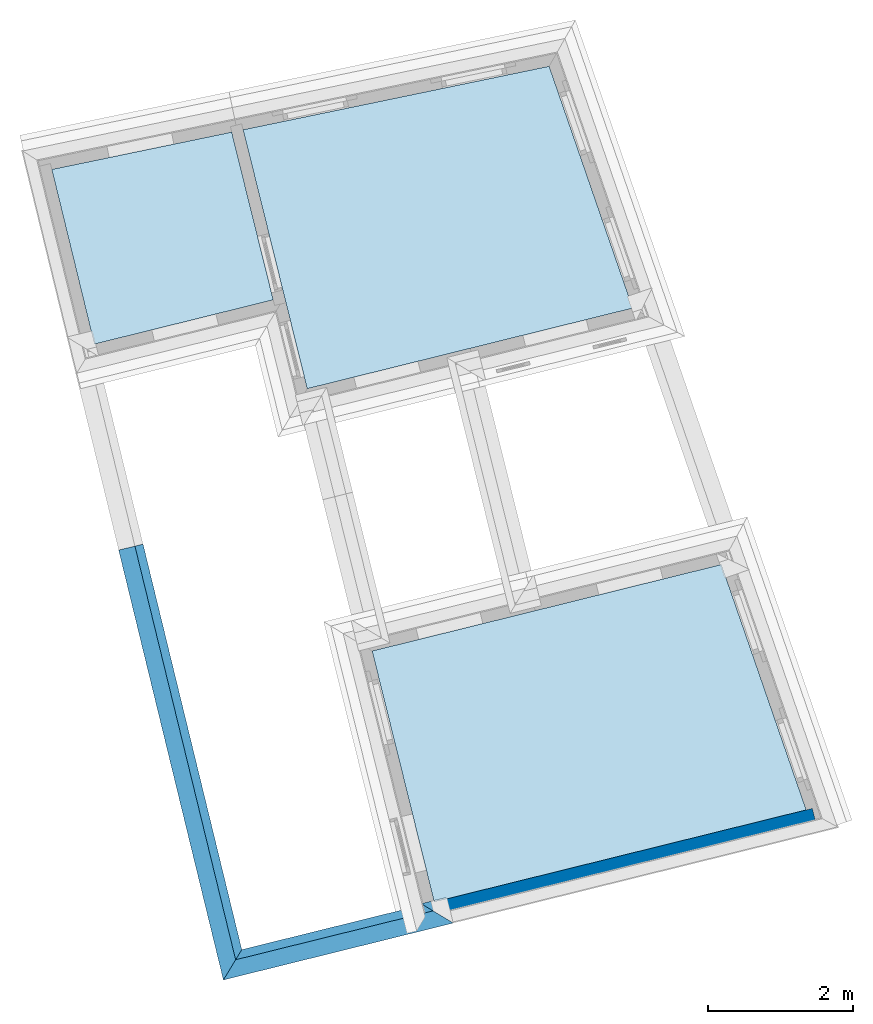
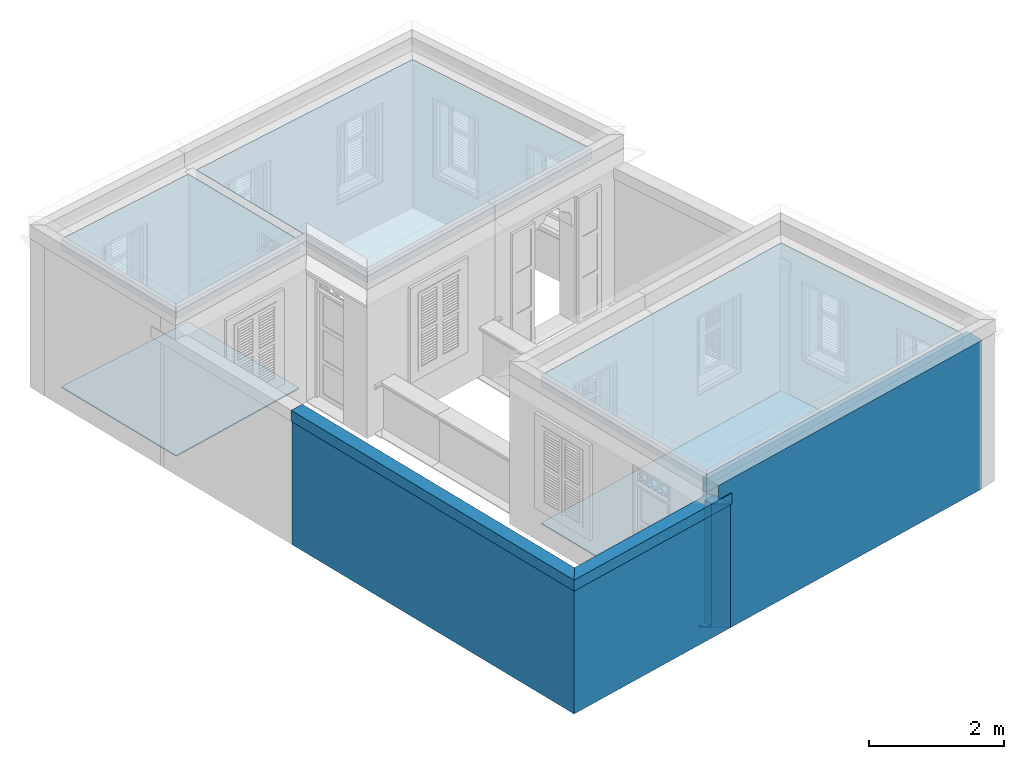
# One storey, part 1 of 15: 6 walls, 5 slabs.
"""IFC4 building model written with IfcOpenShell, lengths in metres."""

import ifcopenshell
import ifcopenshell.guid

model = None  # the IFC model being written
_history = None  # IfcOwnerHistory: only IFC2X3 demands one
_inside = {}  # id of a spatial element -> (the spatial element, [elements in it])
_under = {}  # id of a project, library or spatial element -> (it, [spatial elements below it])
_declared = {}  # id of a project -> (the project, [libraries it declares])
_typed = {}  # id of a type object -> (the type object, [elements of that type])
_made_of = {}  # id of a material, layer set ... -> (it, [elements and type objects made of it])


def new_model(schema):
    """Start an empty IFC model of exactly this schema.

    Asked for "IFC4X3", IfcOpenShell would pick the latest addendum, in which some entities
    have other attributes; the version numbers below select the first issue.
    IFC2X3 requires an IfcOwnerHistory on every rooted entity: one is made here for all.
    """
    global model, _history
    if schema == "IFC4X3":
        model = ifcopenshell.file(schema_version=(4, 3, 0, 0))
    else:
        model = ifcopenshell.file(schema=schema)
    _inside.clear()
    _under.clear()
    _declared.clear()
    _typed.clear()
    _made_of.clear()
    _history = None
    if model.schema == "IFC2X3":
        org = make("IfcOrganization", Name="unknown")
        user = make(
            "IfcPersonAndOrganization",
            ThePerson=make("IfcPerson", FamilyName="unknown"),
            TheOrganization=org,
        )
        app = make(
            "IfcApplication",
            ApplicationDeveloper=org,
            Version="unknown",
            ApplicationFullName="unknown",
            ApplicationIdentifier="unknown",
        )
        _history = make(
            "IfcOwnerHistory",
            OwningUser=user,
            OwningApplication=app,
            ChangeAction="ADDED",
            CreationDate=0,
        )
    return model


def make(cls, **values):
    """One entity of the class cls with the attributes given. An attribute that is None is left unset."""
    return model.create_entity(
        cls, **{name: value for name, value in values.items() if value is not None}
    )


def rooted(cls, **values):
    """An entity with a GlobalId (a new one), such as an element, a storey or a relation."""
    return make(cls, GlobalId=ifcopenshell.guid.new(), OwnerHistory=_history, **values)


def si_unit(unit_type, name, prefix=None):
    """IfcSIUnit, for example si_unit("LENGTHUNIT", "METRE", prefix="MILLI")."""
    return make("IfcSIUnit", UnitType=unit_type, Prefix=prefix, Name=name)


def assignment(units):
    """IfcUnitAssignment: the units of a project."""
    return None if units is None else make("IfcUnitAssignment", Units=units)


def point(xyz):
    """IfcCartesianPoint."""
    return None if xyz is None else make("IfcCartesianPoint", Coordinates=xyz)


def direction(xyz):
    """IfcDirection."""
    return None if xyz is None else make("IfcDirection", DirectionRatios=xyz)


def frame(location, z_axis=None, x_axis=None):
    """IfcAxis2Placement3D, a coordinate frame: its origin and axes. An axis left out is left unset."""
    return make(
        "IfcAxis2Placement3D",
        Location=point(location),
        Axis=direction(z_axis),
        RefDirection=direction(x_axis),
    )


def origin_with_axes():
    """The frame at (0, 0, 0) with the z axis (0, 0, 1) and the x axis (1, 0, 0) written out."""
    return frame((0.0, 0.0, 0.0), z_axis=(0.0, 0.0, 1.0), x_axis=(1.0, 0.0, 0.0))


def place(relative_to, where):
    """IfcLocalPlacement: puts the frame where relative to a parent placement (None: the world)."""
    return make(
        "IfcLocalPlacement", PlacementRelTo=relative_to, RelativePlacement=where
    )


def context(
    kind, dimensions, precision=None, world=None, true_north=None, identifier=None
):
    """IfcGeometricRepresentationContext, for example the 3D "Model" context."""
    return make(
        "IfcGeometricRepresentationContext",
        ContextIdentifier=identifier,
        ContextType=kind,
        CoordinateSpaceDimension=dimensions,
        Precision=precision,
        WorldCoordinateSystem=world,
        TrueNorth=true_north,
    )


def subcontext(parent, identifier, kind, view, scale=None):
    """IfcGeometricRepresentationSubContext, for example "Body" below "Model"."""
    return make(
        "IfcGeometricRepresentationSubContext",
        ContextIdentifier=identifier,
        ContextType=kind,
        ParentContext=parent,
        TargetScale=scale,
        TargetView=view,
    )


def project(units=None, contexts=None):
    """IfcProject with its units and contexts."""
    return rooted(
        "IfcProject",
        Name="project",
        RepresentationContexts=contexts,
        UnitsInContext=assignment(units),
    )


def spatial(cls, under=None, at=None, **own):
    """A site, building, storey or space (cls), placed at a placement, below another one or the project."""
    s = rooted(cls, ObjectPlacement=at, **own)
    if under is not None:
        _under.setdefault(under.id(), (under, []))[1].append(s)
    return s


def polyline(points):
    """IfcPolyline through the points."""
    return make("IfcPolyline", Points=[point(p) for p in points])


def outline(outer, holes=None, kind="AREA"):
    """IfcArbitraryClosedProfileDef: a profile drawn as a closed curve; with holes, ...WithVoids."""
    if holes is None:
        return make("IfcArbitraryClosedProfileDef", ProfileType=kind, OuterCurve=outer)
    return make(
        "IfcArbitraryProfileDefWithVoids",
        ProfileType=kind,
        OuterCurve=outer,
        InnerCurves=holes,
    )


def extrude(swept, where, along, depth):
    """IfcExtrudedAreaSolid: the profile swept, set in the frame where, extruded along a direction by depth."""
    return make(
        "IfcExtrudedAreaSolid",
        SweptArea=swept,
        Position=where,
        ExtrudedDirection=direction(along),
        Depth=depth,
    )


def clip(a, b, op="DIFFERENCE"):
    """IfcBooleanClippingResult: the solid a cut by the half space b."""
    return make(
        "IfcBooleanClippingResult", Operator=op, FirstOperand=a, SecondOperand=b
    )


def halfspace(plane, agree):
    """IfcHalfSpaceSolid: all space on one side of the plane z = 0 of the frame plane."""
    return make(
        "IfcHalfSpaceSolid",
        BaseSurface=make("IfcPlane", Position=plane),
        AgreementFlag=agree,
    )


def shape(context_of_items, identifier, shape_type, items):
    """IfcShapeRepresentation: the items that make up one representation, for example the "Body"."""
    return make(
        "IfcShapeRepresentation",
        ContextOfItems=context_of_items,
        RepresentationIdentifier=identifier,
        RepresentationType=shape_type,
        Items=items,
    )


def material(Name=None, Category=None):
    """IfcMaterial."""
    return make("IfcMaterial", Name=Name, Category=Category)


def layer(
    of_material, thickness, ventilated=None, Name=None, Category=None, Priority=None
):
    """IfcMaterialLayer: one layer of a wall or slab, of a material (None: an air gap)."""
    return make(
        "IfcMaterialLayer",
        Material=of_material,
        LayerThickness=thickness,
        IsVentilated=ventilated,
        Name=Name,
        Category=Category,
        Priority=Priority,
    )


def layer_set(layers, Name=None):
    """IfcMaterialLayerSet."""
    return make("IfcMaterialLayerSet", MaterialLayers=layers, LayerSetName=Name)


def layer_usage(for_layer_set, set_direction, sense, offset, extent=None):
    """IfcMaterialLayerSetUsage: how a layer set lies in its element."""
    return make(
        "IfcMaterialLayerSetUsage",
        ForLayerSet=for_layer_set,
        LayerSetDirection=set_direction,
        DirectionSense=sense,
        OffsetFromReferenceLine=offset,
        ReferenceExtent=extent,
    )


def material_profile(
    of_material, cross_section, Name=None, Category=None, Priority=None
):
    """IfcMaterialProfile: a cross section and its material."""
    return make(
        "IfcMaterialProfile",
        Name=Name,
        Material=of_material,
        Profile=cross_section,
        Priority=Priority,
        Category=Category,
    )


def profile_set(profiles, Name=None, composite=None):
    """IfcMaterialProfileSet."""
    return make(
        "IfcMaterialProfileSet",
        Name=Name,
        MaterialProfiles=profiles,
        CompositeProfile=composite,
    )


def profile_usage(for_profile_set, cardinal=None, extent=None):
    """IfcMaterialProfileSetUsage: how a profile set lies along its element."""
    return make(
        "IfcMaterialProfileSetUsage",
        ForProfileSet=for_profile_set,
        CardinalPoint=cardinal,
        ReferenceExtent=extent,
    )


def made_of(thing, what):
    """Note that an element or type object is made of a material, layer set ...; save() writes the relation."""
    if what is not None:
        _made_of.setdefault(what.id(), (what, []))[1].append(thing)
    return thing


def type_object(cls, material=None, **own):
    """A type object (cls), such as IfcWallType, which elements share."""
    return made_of(rooted(cls, **own), material)


def element(
    cls,
    number,
    at=None,
    inside=None,
    cuts=None,
    type_object=None,
    material=None,
    context=None,
    identifier="Body",
    shape_type=None,
    held_by="IfcProductDefinitionShape",
    body=None,
    shapes=None,
    **own,
):
    """One element of the class cls, such as IfcWall. Its Tag is "e" and its number.

    at: its placement. inside: the storey or other place that contains it. cuts: it is an
    opening in that element (IfcRelVoidsElement). A single representation is given by context,
    identifier, shape_type and body (its items); several are given by shapes. held_by: the class
    of the entity that holds the representations. save() writes the other relations.
    """
    e = rooted(cls, Tag="e%d" % number, ObjectPlacement=at, **own)
    if body is not None:
        shapes = [shape(context, identifier, shape_type, body)]
    if shapes is not None:
        e.Representation = make(held_by, Representations=shapes)
    if inside is not None:
        _inside.setdefault(inside.id(), (inside, []))[1].append(e)
    if cuts is not None:
        rooted(
            "IfcRelVoidsElement", RelatingBuildingElement=cuts, RelatedOpeningElement=e
        )
    if type_object is not None:
        _typed.setdefault(type_object.id(), (type_object, []))[1].append(e)
    return made_of(e, material)


def aggregate(whole, parts):
    """IfcRelAggregates: a whole, such as a stair, and the parts it consists of."""
    return rooted("IfcRelAggregates", RelatingObject=whole, RelatedObjects=parts)


def save(model, path):
    """Write the relations noted so far, then the file.

    IfcRelAggregates (storeys below a building ...), IfcRelContainedInSpatialStructure (elements
    in a storey), IfcRelDefinesByType, IfcRelAssociatesMaterial and IfcRelDeclares: one each for
    every whole, place, type object, material and project.
    """
    for whole, parts in _under.values():
        aggregate(whole, parts)
    for where, things in _inside.values():
        rooted(
            "IfcRelContainedInSpatialStructure",
            RelatedElements=things,
            RelatingStructure=where,
        )
    for kind, things in _typed.values():
        rooted("IfcRelDefinesByType", RelatedObjects=things, RelatingType=kind)
    for what, things in _made_of.values():
        rooted("IfcRelAssociatesMaterial", RelatedObjects=things, RelatingMaterial=what)
    for by, libraries in _declared.values():
        rooted("IfcRelDeclares", RelatingContext=by, RelatedDefinitions=libraries)
    model.write(path)


model = new_model("IFC4")

# Units and contexts
model_context = context("Model", 3, world=origin_with_axes())
body_context = subcontext(model_context, "Body", "Model", "MODEL_VIEW")
ifc_project = project(units=[si_unit("PLANEANGLEUNIT", "RADIAN"), si_unit("MASSUNIT", "GRAM", prefix="KILO"), si_unit("FORCEUNIT", "NEWTON", prefix="KILO"), si_unit("LENGTHUNIT", "METRE"), si_unit("AREAUNIT", "SQUARE_METRE"), si_unit("VOLUMEUNIT", "CUBIC_METRE")], contexts=[model_context, model_context])

# Site, building, storey
site_placement = place(None, origin_with_axes())
site = spatial("IfcSite", under=ifc_project, at=site_placement, Name="Site plot-5", CompositionType="ELEMENT")
building_placement = place(None, origin_with_axes())
building = spatial("IfcBuilding", under=site, at=building_placement, Name="Building plot-5", CompositionType="ELEMENT")
storey_placement = place(None, frame((0.0, 0.0, 3.45), z_axis=(0.0, 0.0, 1.0), x_axis=(1.0, 0.0, 0.0)))
storey = spatial("IfcBuildingStorey", under=building, at=storey_placement, Name="plot-5 1", CompositionType="ELEMENT", Elevation=3.45)

# Slabs
slab_1_placement = place(storey_placement, frame((17.7298287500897, 28.7600155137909, 2.5)))
element("IfcSlab", 1, at=slab_1_placement, inside=storey, Name="My Slab", ObjectType="Slab", PredefinedType="FLOOR", context=body_context, shape_type="SweptSolid", body=[
    extrude(outline(polyline([(0.0, 0.0), (-0.571546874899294, 2.30928850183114), (-3.04841993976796, 1.79547553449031), (-2.46274600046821, -0.609527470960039), (0.0, 0.0)])), origin_with_axes(), (0.0, 0.0, 1.0), 0.2),
])
slab_2_placement = place(storey_placement, frame((17.7298287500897, 28.7600155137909, 0.0)))
element("IfcSlab", 2, at=slab_2_placement, inside=storey, Name="My Slab", ObjectType="Slab", PredefinedType="FLOOR", context=body_context, shape_type="SweptSolid", body=[
    extrude(outline(polyline([(0.0, 0.0), (-0.571546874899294, 2.30928850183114), (-3.04841993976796, 1.79547553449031), (-2.46274600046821, -0.609527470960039), (0.0, 0.0)])), origin_with_axes(), (0.0, 0.0, 1.0), 0.02),
])
slab_3_placement = place(storey_placement, frame((22.678977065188, 28.6460855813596, 2.5)))
element("IfcSlab", 3, at=slab_3_placement, inside=storey, Name="My Slab", ObjectType="Slab", PredefinedType="FLOOR", context=body_context, shape_type="SweptSolid", body=[
    extrude(outline(polyline([(0.0, 0.0), (-1.15099847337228, 3.32968670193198), (-5.36391690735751, 2.45574118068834), (-4.48159911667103, -1.10919184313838), (0.0, 0.0)])), origin_with_axes(), (0.0, 0.0, 1.0), 0.2),
])
slab_4_placement = place(storey_placement, frame((19.0908289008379, 23.9269780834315, 2.5)))
element("IfcSlab", 4, at=slab_4_placement, inside=storey, Name="My Slab", ObjectType="Slab", PredefinedType="FLOOR", context=body_context, shape_type="SweptSolid", body=[
    extrude(outline(polyline([(0.0, 0.0), (0.855193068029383, -3.45533779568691), (5.97578021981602, -2.18799697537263), (4.80808321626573, 1.18999637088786), (0.0, 0.0)])), origin_with_axes(), (0.0, 0.0, 1.0), 0.2),
])
slab_5_placement = place(storey_placement, frame((19.0908289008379, 23.9269780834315, 0.0)))
element("IfcSlab", 5, at=slab_5_placement, inside=storey, Name="My Slab", ObjectType="Slab", PredefinedType="FLOOR", context=body_context, shape_type="SweptSolid", body=[
    extrude(outline(polyline([(0.0, 0.0), (0.855193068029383, -3.45533779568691), (5.97578021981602, -2.18799697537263), (4.80808321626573, 1.18999637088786), (0.0, 0.0)])), origin_with_axes(), (0.0, 0.0, 1.0), 0.02),
])

# Walls
ifc_material = material(Name="Masonry")
ifc_layer = layer(ifc_material, 0.33, ventilated=False)
ifc_layer_set = layer_set([ifc_layer], Name="party_0.08_0.25")
ifc_layer_usage = layer_usage(ifc_layer_set, "AXIS2", "POSITIVE", -0.25)
wall_type_1 = type_object("IfcWallType", Name="party_0.08_0.25", PredefinedType="SOLIDWALL", material=ifc_layer_set)
wall_1_placement = place(storey_placement, frame((19.8875850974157, 20.3747633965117, 0.0), z_axis=(0.0, 0.0, 1.0), x_axis=(0.970711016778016, 0.240250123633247, 0.0)))
element("IfcWall", 6, at=wall_1_placement, inside=storey, type_object=wall_type_1, material=ifc_layer_usage, Name="party", context=body_context, shape_type="SweptSolid", body=[
    extrude(outline(polyline([(5.37805639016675e-16, 0.0800000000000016), (-1.51225368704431e-16, -0.249999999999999), (5.4426509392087, -0.249999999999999), (5.4426509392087, 0.0800000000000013), (5.37805639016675e-16, 0.0800000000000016)])), origin_with_axes(), (0.0, 0.0, 1.0), 2.7),
])
ifc_material_profile_1 = material_profile(None, outline(polyline([(0.25, 0.0), (0.25, 2.245), (0.05, 2.245), (0.05, 0.02), (-0.08, 0.02), (-0.08, 0.0), (0.25, 0.0)])))
ifc_profile_set_1 = profile_set([ifc_material_profile_1])
ifc_profile_usage_1 = profile_usage(ifc_profile_set_1)
wall_type_2 = type_object("IfcWallType", Name="parapet party_0", PredefinedType="PARAPET", material=ifc_profile_set_1)
wall_2_placement = place(storey_placement, frame((17.4746168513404, 18.7473904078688, 0.0), z_axis=(-0.236608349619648, 0.971605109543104, 0.0), x_axis=(-0.971605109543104, -0.236608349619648, 0.0)))
element("IfcWall", 7, at=wall_2_placement, inside=storey, type_object=wall_type_2, material=ifc_profile_usage_1, Name="parapet party_0", context=body_context, shape_type="Clipping", body=[
    clip(clip(extrude(outline(polyline([(0.25, 0.0), (0.25, 2.245), (0.05, 2.245), (0.05, 0.02), (-0.08, 0.02), (-0.08, 0.0), (0.25, 0.0)])), origin_with_axes(), (0.0, 0.0, 1.0), 7.82481157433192), halfspace(frame((0.0, 0.0, 6.82481157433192), z_axis=(8.26946079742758e-16, 0.0, -1.0), x_axis=(0.0, 1.0, 0.0)), True)), halfspace(frame((0.0, 0.0, 1.0), z_axis=(-0.708431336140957, 0.0, -0.705779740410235), x_axis=(0.0, 1.0, 0.0)), False)),
])
ifc_profile_usage_2 = profile_usage(ifc_profile_set_1)
wall_3_placement = place(storey_placement, frame((20.8582961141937, 20.6150135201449, 0.0), z_axis=(-0.970711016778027, -0.240250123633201, 0.0), x_axis=(0.240250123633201, -0.970711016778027, 0.0)))
element("IfcWall", 8, at=wall_3_placement, inside=storey, type_object=wall_type_2, material=ifc_profile_usage_2, Name="parapet party_0", context=body_context, shape_type="Clipping", body=[
    clip(clip(extrude(outline(polyline([(0.25, 0.0), (0.25, 2.245), (0.05, 2.245), (0.05, 0.02), (-0.08, 0.02), (-0.08, 0.0), (0.25, 0.0)])), origin_with_axes(), (0.0, 0.0, 1.0), 4.72952150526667), halfspace(frame((0.0, 0.0, 3.72952150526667), z_axis=(0.708431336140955, 0.0, -0.705779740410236), x_axis=(0.0, 1.0, 0.0)), True)), halfspace(frame((0.0, 0.0, 1.0), z_axis=(-0.707106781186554, 0.0, -0.707106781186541), x_axis=(0.0, 1.0, 0.0)), False)),
])
ifc_profile_usage_3 = profile_usage(ifc_profile_set_1)
wall_4_placement = place(storey_placement, frame((19.6233099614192, 21.4425455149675, 0.0), z_axis=(0.240250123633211, -0.970711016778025, 0.0), x_axis=(0.970711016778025, 0.240250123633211, 0.0)))
element("IfcWall", 9, at=wall_4_placement, inside=storey, type_object=wall_type_2, material=ifc_profile_usage_3, Name="parapet party_0", context=body_context, shape_type="Clipping", body=[
    clip(clip(extrude(outline(polyline([(0.25, 0.0), (0.25, 2.245), (0.05, 2.245), (0.05, 0.02), (-0.08, 0.02), (-0.08, 0.0), (0.25, 0.0)])), origin_with_axes(), (0.0, 0.0, 1.0), 2.1), halfspace(frame((0.0, 0.0, 1.1), z_axis=(0.707106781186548, 0.0, -0.707106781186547), x_axis=(0.0, 1.0, 0.0)), True)), halfspace(frame((0.0, 0.0, 1.0), z_axis=(1.93716910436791e-15, 0.0, -1.0), x_axis=(0.0, 1.0, 0.0)), False)),
])
ifc_material_profile_2 = material_profile(None, outline(polyline([(0.265, 2.245), (0.265, 2.445), (0.035, 2.445), (0.035, 2.245), (0.265, 2.245)])))
ifc_profile_set_2 = profile_set([ifc_material_profile_2])
ifc_profile_usage_4 = profile_usage(ifc_profile_set_2)
wall_type_3 = type_object("IfcWallType", Name="parapet party_1", PredefinedType="PARAPET", material=ifc_profile_set_2)
wall_5_placement = place(storey_placement, frame((17.4746168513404, 18.7473904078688, 0.0), z_axis=(-0.236608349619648, 0.971605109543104, 0.0), x_axis=(-0.971605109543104, -0.236608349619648, 0.0)))
element("IfcWall", 10, at=wall_5_placement, inside=storey, type_object=wall_type_3, material=ifc_profile_usage_4, Name="parapet party_1", context=body_context, shape_type="Clipping", body=[
    clip(clip(extrude(outline(polyline([(0.265, 2.245), (0.265, 2.445), (0.035, 2.445), (0.035, 2.245), (0.265, 2.245)])), origin_with_axes(), (0.0, 0.0, 1.0), 7.82481157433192), halfspace(frame((0.0, 0.0, 6.82481157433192), z_axis=(8.26946079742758e-16, 0.0, -1.0), x_axis=(0.0, 1.0, 0.0)), True)), halfspace(frame((0.0, 0.0, 1.0), z_axis=(-0.708431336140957, 0.0, -0.705779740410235), x_axis=(0.0, 1.0, 0.0)), False)),
])
ifc_profile_usage_5 = profile_usage(ifc_profile_set_2)
wall_6_placement = place(storey_placement, frame((20.8582961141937, 20.6150135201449, 0.0), z_axis=(-0.970711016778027, -0.240250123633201, 0.0), x_axis=(0.240250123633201, -0.970711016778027, 0.0)))
element("IfcWall", 11, at=wall_6_placement, inside=storey, type_object=wall_type_3, material=ifc_profile_usage_5, Name="parapet party_1", context=body_context, shape_type="Clipping", body=[
    clip(clip(extrude(outline(polyline([(0.265, 2.245), (0.265, 2.445), (0.035, 2.445), (0.035, 2.245), (0.265, 2.245)])), origin_with_axes(), (0.0, 0.0, 1.0), 4.72952150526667), halfspace(frame((0.0, 0.0, 3.72952150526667), z_axis=(0.708431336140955, 0.0, -0.705779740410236), x_axis=(0.0, 1.0, 0.0)), True)), halfspace(frame((0.0, 0.0, 1.0), z_axis=(-0.707106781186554, 0.0, -0.707106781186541), x_axis=(0.0, 1.0, 0.0)), False)),
])

save(model, "model.ifc")
